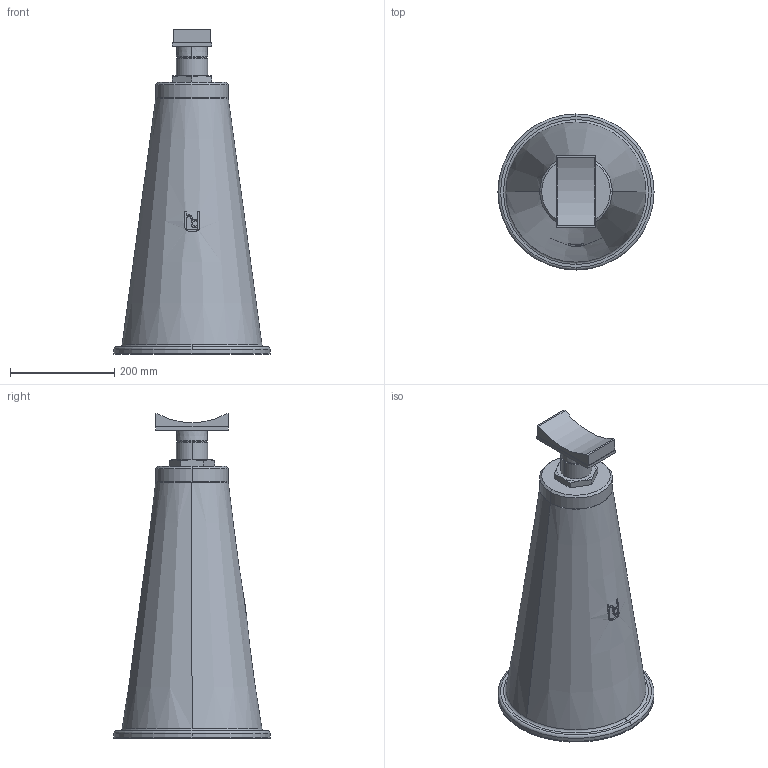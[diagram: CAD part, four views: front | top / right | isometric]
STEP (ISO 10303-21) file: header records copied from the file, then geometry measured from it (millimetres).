
FILE_DESCRIPTION(('STEP AP214'),'1');
FILE_NAME('RSRFC_DN250.stp','2018-06-27T09:50:04',(' '),(' '),'Spatial InterOp 3D',' ',' ');
FILE_SCHEMA(('automotive_design'));
Length unit declared in the file: millimetre
Products named in the file (6): 1; 2; 3; 4; 5; 6
Bounding box: 300 x 300 x 623.11 mm (x, y, z)
Volume: 18726878.5 mm3; surface area: 717812.2 mm2
Topology: 6 solids, 6 shells, 113 faces, 279 edges, 183 vertices
Faces by surface type: plane 50, cylinder 32, cone 23, torus 8
Entity records: 4957 total; most frequent: CARTESIAN_POINT 1243, DIRECTION 569, ORIENTED_EDGE 558, EDGE_CURVE 279, AXIS2_PLACEMENT_3D 219, VERTEX_POINT 183, LINE 131, VECTOR 131
